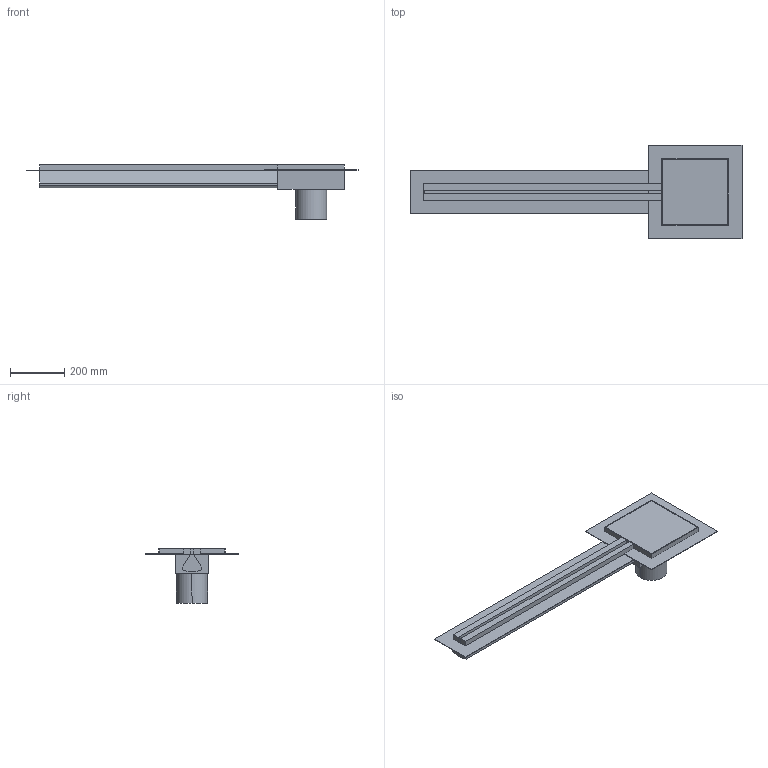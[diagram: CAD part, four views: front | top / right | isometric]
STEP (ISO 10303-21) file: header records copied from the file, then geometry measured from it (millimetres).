
FILE_DESCRIPTION(/* description */ (''),/* implementation_level */ '2;1');
FILE_NAME(/* name */ 'E:\Workspace\resitec\Packs\Kategorie\Entwässerungsrinne\STP\RS772K.65.245Schlitzrinne mit Rand 25mm AuslaufkastenE245mm-4xKR.s.ipt.stp',/* time_stamp */ '2020-10-04T20:57:25+02:00',/* author */ ('ndmes'),/* organization */ (''),/* preprocessor_version */ 'ST-DEVELOPER v18.1',/* originating_system */ 'Autodesk Inventor 2021',/* authorisation */ '');
FILE_SCHEMA (('AUTOMOTIVE_DESIGN { 1 0 10303 214 3 1 1 }'));
Length unit declared in the file: millimetre
Products named in the file (1): RS772K.65.245Schlitzrinne mit Rand 25mm AuslaufkastenE245mm-4xKR.s
Bounding box: 1222.5 x 345 x 200 mm (x, y, z)
Volume: 9001991.7 mm3; surface area: 1253725.1 mm2
Topology: 8 solids, 8 shells, 59 faces, 129 edges, 86 vertices
Faces by surface type: plane 57, cylinder 2
Entity records: 1625 total; most frequent: CARTESIAN_POINT 275, ORIENTED_EDGE 258, DIRECTION 253, EDGE_CURVE 129, LINE 125, VECTOR 125, VERTEX_POINT 86, AXIS2_PLACEMENT_3D 64
